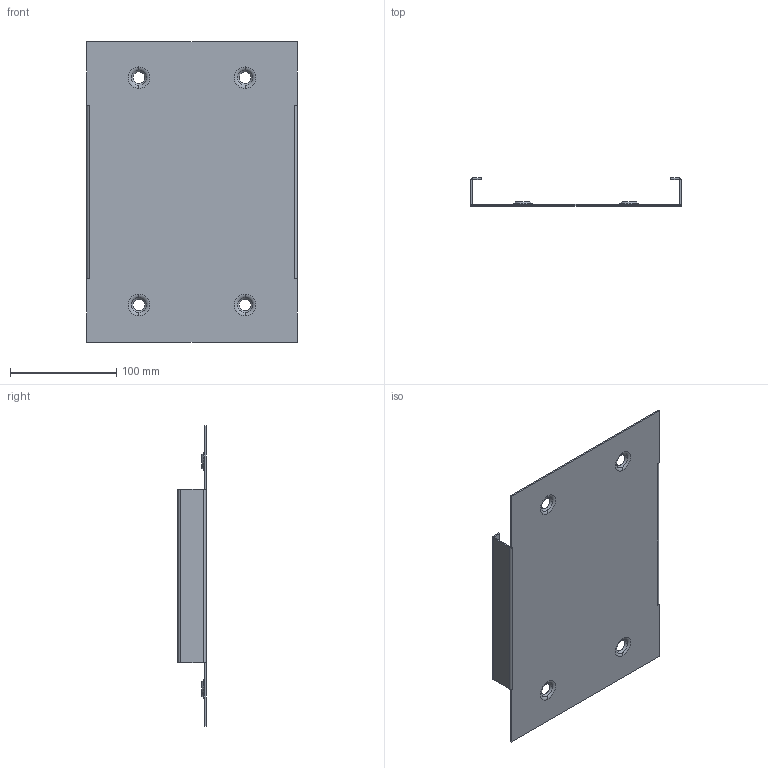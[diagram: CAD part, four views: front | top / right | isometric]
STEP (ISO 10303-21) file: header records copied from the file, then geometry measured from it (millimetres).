
FILE_DESCRIPTION (( 'STEP AP203' ), '1' );
FILE_NAME ('PSK2030_V1.step', '2013-03-20T12:48:42', ( '' ), ( '' ), 'SwSTEP 2.0', 'SolidWorks 2011', '' );
FILE_SCHEMA (( 'CONFIG_CONTROL_DESIGN' ));
Length unit declared in the file: millimetre
Products named in the file (1): PSK2030_V1
Bounding box: 198 x 26.5 x 283.2 mm (x, y, z)
Volume: 99293 mm3; surface area: 134279.7 mm2
Topology: 1 solids, 1 shells, 94 faces, 228 edges, 136 vertices
Faces by surface type: plane 46, cone 24, torus 16, cylinder 8
Entity records: 2817 total; most frequent: DIRECTION 514, CARTESIAN_POINT 459, ORIENTED_EDGE 456, EDGE_CURVE 228, AXIS2_PLACEMENT_3D 191, VERTEX_POINT 136, LINE 132, VECTOR 132
